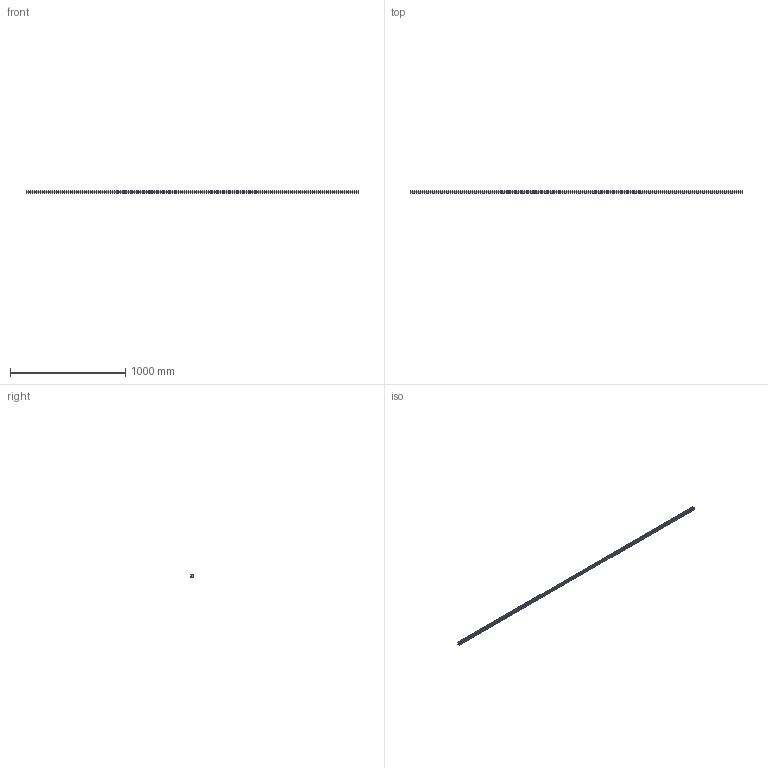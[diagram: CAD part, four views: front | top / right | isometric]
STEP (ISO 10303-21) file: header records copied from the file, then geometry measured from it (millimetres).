
FILE_DESCRIPTION (( 'STEP AP203' ), '1' );
FILE_NAME ('L1018.25R-2880.step', '2023-08-06T10:44:34', ( '' ), ( '' ), 'SwSTEP 2.0', 'SolidWorks 2019', '' );
FILE_SCHEMA (( 'CONFIG_CONTROL_DESIGN' ));
Length unit declared in the file: millimetre
Products named in the file (1): L1018.25R-2880
Bounding box: 2880 x 21.8 x 25 mm (x, y, z)
Volume: 1197757.7 mm3; surface area: 286829.1 mm2
Topology: 1 solids, 1 shells, 461 faces, 1041 edges, 582 vertices
Faces by surface type: cylinder 195, cone 192, plane 74
Entity records: 12230 total; most frequent: DIRECTION 2355, CARTESIAN_POINT 1989, ORIENTED_EDGE 1890, AXIS2_PLACEMENT_3D 948, EDGE_CURVE 945, VERTEX_POINT 582, EDGE_LOOP 557, CIRCLE 486
